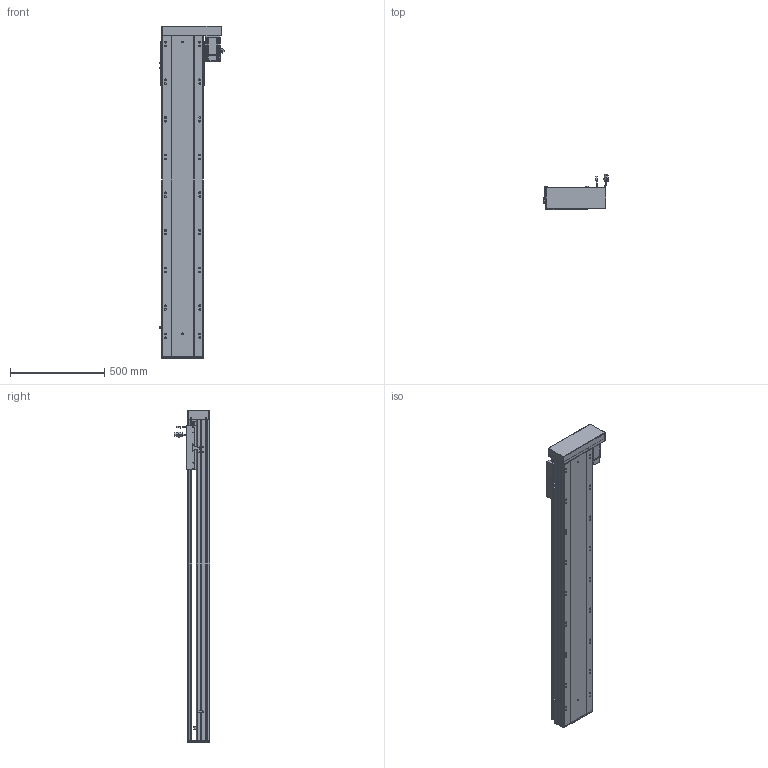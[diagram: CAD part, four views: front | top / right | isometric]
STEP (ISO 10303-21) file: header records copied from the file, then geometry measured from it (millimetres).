
FILE_DESCRIPTION (( 'STEP AP203' ), '1' );
FILE_NAME ('RY220-L2525-800-RK-邧嶺.SLDASM_1350.step', '2022-08-06T08:53:08', ( '' ), ( '' ), 'SwSTEP 2.0', 'SolidWorks 2016', '' );
FILE_SCHEMA (( 'CONFIG_CONTROL_DESIGN' ));
Length unit declared in the file: millimetre
Products named in the file (12): RY220蛌殏菁釱-800-邧嶺_1350; RY220半封闭25-32螺母铝滑块; RY220左右折电机安装板; RY220-L2525-800-RK-邧嶺.SLDASM_1350; RY220酘衵殏萇儂欶; RY220-俋离672覜茼んえ; 滅袉蝶18-10; RY220-800-蛌殏奻裔啣_1350; RY220綴裔啣; 覜茼ん672; 滅袉蝶18-15; 怢湛750W_ECMA-CX0807ES
Assembly tree (15 placements, depth 2):
  RY220-L2525-800-RK-邧嶺.SLDASM_1350
    RY220蛌殏菁釱-800-邧嶺_1350
    RY220-800-蛌殏奻裔啣_1350
    怢湛750W_ECMA-CX0807ES
    滅袉蝶18-10  x2
    RY220-俋离672覜茼んえ
    覜茼ん672  x3
    RY220綴裔啣
    RY220半封闭25-32螺母铝滑块
    滅袉蝶18-15  x2
    RY220左右折电机安装板
    RY220酘衵殏萇儂欶
Bounding box: 347.44 x 187.27 x 1764 mm (x, y, z)
Volume: 14002021.4 mm3; surface area: 4179834.2 mm2
Topology: 16 solids, 16 shells, 2251 faces, 6212 edges, 3913 vertices
Faces by surface type: cylinder 1027, plane 904, cone 250, bspline 44, sphere 16, torus 10
Entity records: 74259 total; most frequent: CARTESIAN_POINT 21421, ORIENTED_EDGE 10952, DIRECTION 10360, EDGE_CURVE 5476, AXIS2_PLACEMENT_3D 3657, VERTEX_POINT 3569, VECTOR 3046, LINE 3046
